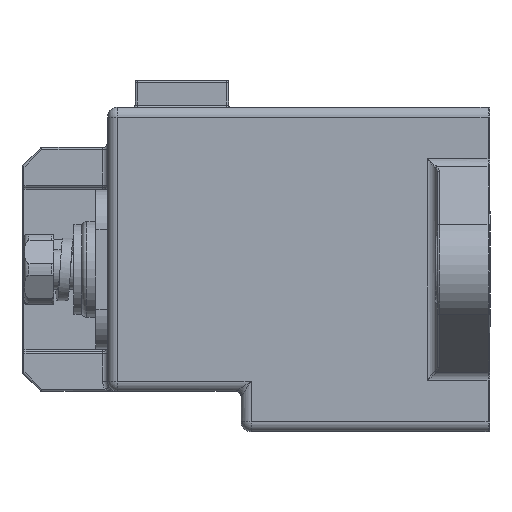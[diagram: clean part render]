
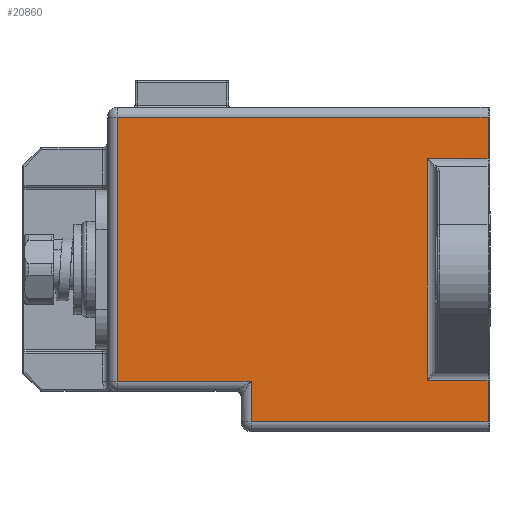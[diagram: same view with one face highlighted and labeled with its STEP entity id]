
A CAD part, left-side view. The second image highlights one B-rep face of the part: STEP entity #20860.
In plain terms, the highlighted planar face has unit normal (-1, 0, 0).
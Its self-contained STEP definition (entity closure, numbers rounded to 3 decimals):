
#354 = DIRECTION ( 'NONE',  ( 0., 0., 1. ) ) ;
#355 = EDGE_CURVE ( 'NONE', #16231, #25933, #22664, .T. ) ;
#674 = VERTEX_POINT ( 'NONE', #10797 ) ;
#1185 = VECTOR ( 'NONE', #354, 1000. ) ;
#1559 = DIRECTION ( 'NONE',  ( 0., 0., 1. ) ) ;
#1747 = VECTOR ( 'NONE', #13795, 1000. ) ;
#2531 = CARTESIAN_POINT ( 'NONE',  ( -22.4, 24., -11.25 ) ) ;
#2601 = LINE ( 'NONE', #21484, #15195 ) ;
#3142 = VECTOR ( 'NONE', #19673, 1000. ) ;
#3371 = EDGE_CURVE ( 'NONE', #18915, #16231, #25044, .T. ) ;
#3378 = AXIS2_PLACEMENT_3D ( 'NONE', #16368, #6144, #22257 ) ;
#3723 = DIRECTION ( 'NONE',  ( 0., 0., -1. ) ) ;
#3827 = VERTEX_POINT ( 'NONE', #25599 ) ;
#4063 = PLANE ( 'NONE',  #3378 ) ;
#5256 = CARTESIAN_POINT ( 'NONE',  ( -22.4, 0.2, 16.3 ) ) ;
#5294 = LINE ( 'NONE', #5256, #23891 ) ;
#5330 = LINE ( 'NONE', #16533, #21389 ) ;
#5941 = ORIENTED_EDGE ( 'NONE', *, *, #24046, .T. ) ;
#6144 = DIRECTION ( 'NONE',  ( 1., 0., 0. ) ) ;
#6751 = DIRECTION ( 'NONE',  ( 0., -1., 0. ) ) ;
#6754 = VERTEX_POINT ( 'NONE', #2531 ) ;
#7441 = CARTESIAN_POINT ( 'NONE',  ( -22.4, 37.4, -12.25 ) ) ;
#8507 = CARTESIAN_POINT ( 'NONE',  ( -22.4, 37.4, 15.3 ) ) ;
#9159 = DIRECTION ( 'NONE',  ( 0., -1., 0. ) ) ;
#9919 = VERTEX_POINT ( 'NONE', #10242 ) ;
#10186 = ORIENTED_EDGE ( 'NONE', *, *, #11123, .T. ) ;
#10242 = CARTESIAN_POINT ( 'NONE',  ( -22.4, 0.2, -15.3 ) ) ;
#10261 = CARTESIAN_POINT ( 'NONE',  ( -22.4, 24., -15.3 ) ) ;
#10352 = LINE ( 'NONE', #25668, #3142 ) ;
#10797 = CARTESIAN_POINT ( 'NONE',  ( -22.4, 0.2, -11.135 ) ) ;
#11004 = VECTOR ( 'NONE', #19675, 1000. ) ;
#11106 = EDGE_LOOP ( 'NONE', ( #15506, #13994, #15459, #5941, #12542, #12568, #16061, #15431, #22716, #10186 ) ) ;
#11123 = EDGE_CURVE ( 'NONE', #16453, #15821, #24481, .T. ) ;
#12542 = ORIENTED_EDGE ( 'NONE', *, *, #17815, .T. ) ;
#12568 = ORIENTED_EDGE ( 'NONE', *, *, #14077, .T. ) ;
#12865 = LINE ( 'NONE', #7441, #21723 ) ;
#13492 = CARTESIAN_POINT ( 'NONE',  ( -22.4, 38.4, 15.3 ) ) ;
#13795 = DIRECTION ( 'NONE',  ( 0., 1., 0. ) ) ;
#13919 = EDGE_CURVE ( 'NONE', #20934, #9919, #2601, .T. ) ;
#13994 = ORIENTED_EDGE ( 'NONE', *, *, #3371, .T. ) ;
#14008 = CARTESIAN_POINT ( 'NONE',  ( -22.4, 0.2, 11.135 ) ) ;
#14077 = EDGE_CURVE ( 'NONE', #6754, #20934, #16488, .T. ) ;
#14605 = CARTESIAN_POINT ( 'NONE',  ( -22.4, 0.2, 15.3 ) ) ;
#15195 = VECTOR ( 'NONE', #9159, 1000. ) ;
#15289 = LINE ( 'NONE', #15425, #1747 ) ;
#15425 = CARTESIAN_POINT ( 'NONE',  ( -22.4, 38.4, -11.135 ) ) ;
#15431 = ORIENTED_EDGE ( 'NONE', *, *, #17045, .T. ) ;
#15459 = ORIENTED_EDGE ( 'NONE', *, *, #355, .T. ) ;
#15506 = ORIENTED_EDGE ( 'NONE', *, *, #24084, .T. ) ;
#15609 = CARTESIAN_POINT ( 'NONE',  ( -22.4, 24., -16.3 ) ) ;
#15821 = VERTEX_POINT ( 'NONE', #22832 ) ;
#16061 = ORIENTED_EDGE ( 'NONE', *, *, #13919, .T. ) ;
#16197 = CARTESIAN_POINT ( 'NONE',  ( -22.4, 6.3, 16.3 ) ) ;
#16231 = VERTEX_POINT ( 'NONE', #14605 ) ;
#16368 = CARTESIAN_POINT ( 'NONE',  ( -22.4, 38.4, 16.3 ) ) ;
#16453 = VERTEX_POINT ( 'NONE', #17240 ) ;
#16488 = LINE ( 'NONE', #15609, #25302 ) ;
#16533 = CARTESIAN_POINT ( 'NONE',  ( -22.4, 38.4, -11.25 ) ) ;
#17045 = EDGE_CURVE ( 'NONE', #9919, #674, #5294, .T. ) ;
#17240 = CARTESIAN_POINT ( 'NONE',  ( -22.4, 6.3, -11.135 ) ) ;
#17815 = EDGE_CURVE ( 'NONE', #3827, #6754, #5330, .T. ) ;
#18400 = FACE_OUTER_BOUND ( 'NONE', #11106, .T. ) ;
#18915 = VERTEX_POINT ( 'NONE', #14008 ) ;
#19024 = CARTESIAN_POINT ( 'NONE',  ( -22.4, 0.2, 16.3 ) ) ;
#19050 = VECTOR ( 'NONE', #19377, 1000. ) ;
#19377 = DIRECTION ( 'NONE',  ( 0., 0., 1. ) ) ;
#19673 = DIRECTION ( 'NONE',  ( 0., -1., 0. ) ) ;
#19675 = DIRECTION ( 'NONE',  ( 0., 1., 0. ) ) ;
#19843 = DIRECTION ( 'NONE',  ( 0., 0., -1. ) ) ;
#20643 = EDGE_CURVE ( 'NONE', #674, #16453, #15289, .T. ) ;
#20860 = ADVANCED_FACE ( 'NONE', ( #18400 ), #4063, .F. ) ;
#20934 = VERTEX_POINT ( 'NONE', #10261 ) ;
#21389 = VECTOR ( 'NONE', #6751, 1000. ) ;
#21484 = CARTESIAN_POINT ( 'NONE',  ( -22.4, 38.4, -15.3 ) ) ;
#21723 = VECTOR ( 'NONE', #19843, 1000. ) ;
#22257 = DIRECTION ( 'NONE',  ( 0., 0., -1. ) ) ;
#22664 = LINE ( 'NONE', #13492, #11004 ) ;
#22716 = ORIENTED_EDGE ( 'NONE', *, *, #20643, .T. ) ;
#22832 = CARTESIAN_POINT ( 'NONE',  ( -22.4, 6.3, 11.135 ) ) ;
#23891 = VECTOR ( 'NONE', #1559, 1000. ) ;
#24046 = EDGE_CURVE ( 'NONE', #25933, #3827, #12865, .T. ) ;
#24084 = EDGE_CURVE ( 'NONE', #15821, #18915, #10352, .T. ) ;
#24481 = LINE ( 'NONE', #16197, #1185 ) ;
#25044 = LINE ( 'NONE', #19024, #19050 ) ;
#25302 = VECTOR ( 'NONE', #3723, 1000. ) ;
#25599 = CARTESIAN_POINT ( 'NONE',  ( -22.4, 37.4, -11.25 ) ) ;
#25668 = CARTESIAN_POINT ( 'NONE',  ( -22.4, 38.4, 11.135 ) ) ;
#25933 = VERTEX_POINT ( 'NONE', #8507 ) ;
